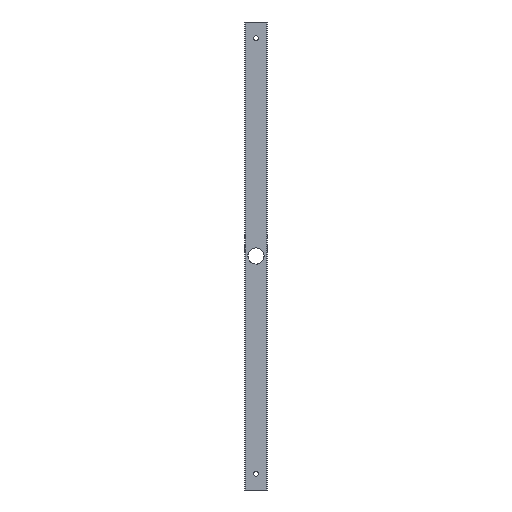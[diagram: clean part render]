
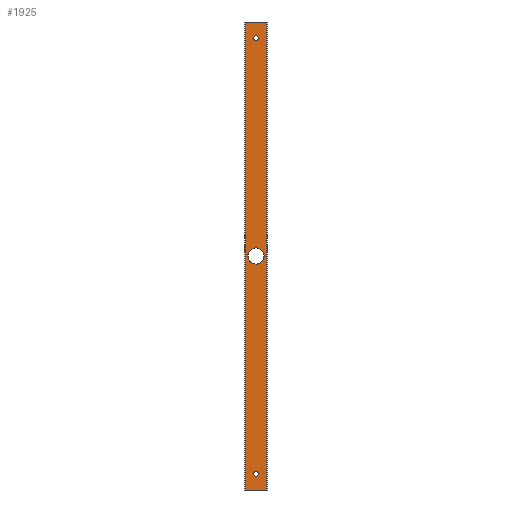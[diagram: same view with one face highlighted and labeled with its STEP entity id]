
A CAD part, front view. The second image highlights one B-rep face of the part: STEP entity #1925.
In plain terms, the highlighted planar face has unit normal (0, -1, 0).
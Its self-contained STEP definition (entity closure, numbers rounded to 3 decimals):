
#20=CIRCLE('',#2049,3.);
#21=CIRCLE('',#2050,3.);
#22=CIRCLE('',#2051,10.);
#129=PLANE('',#2048);
#180=LINE('',#2919,#342);
#181=LINE('',#2922,#343);
#182=LINE('',#2924,#344);
#183=LINE('',#2926,#345);
#342=VECTOR('',#2289,1000.);
#343=VECTOR('',#2290,1000.);
#344=VECTOR('',#2291,1000.);
#345=VECTOR('',#2292,1000.);
#532=ORIENTED_EDGE('',*,*,#1130,.T.);
#533=ORIENTED_EDGE('',*,*,#1131,.F.);
#534=ORIENTED_EDGE('',*,*,#1132,.F.);
#535=ORIENTED_EDGE('',*,*,#1133,.T.);
#536=ORIENTED_EDGE('',*,*,#1134,.T.);
#537=ORIENTED_EDGE('',*,*,#1135,.T.);
#538=ORIENTED_EDGE('',*,*,#1136,.T.);
#1130=EDGE_CURVE('',#1425,#1426,#180,.T.);
#1131=EDGE_CURVE('',#1427,#1426,#181,.T.);
#1132=EDGE_CURVE('',#1428,#1427,#182,.T.);
#1133=EDGE_CURVE('',#1428,#1425,#183,.T.);
#1134=EDGE_CURVE('',#1429,#1429,#20,.T.);
#1135=EDGE_CURVE('',#1430,#1430,#21,.T.);
#1136=EDGE_CURVE('',#1431,#1431,#22,.T.);
#1425=VERTEX_POINT('',#2920);
#1426=VERTEX_POINT('',#2921);
#1427=VERTEX_POINT('',#2923);
#1428=VERTEX_POINT('',#2925);
#1429=VERTEX_POINT('',#2928);
#1430=VERTEX_POINT('',#2930);
#1431=VERTEX_POINT('',#2932);
#1650=EDGE_LOOP('',(#532,#533,#534,#535));
#1651=EDGE_LOOP('',(#536));
#1652=EDGE_LOOP('',(#537));
#1653=EDGE_LOOP('',(#538));
#1758=FACE_BOUND('',#1650,.T.);
#1759=FACE_BOUND('',#1651,.T.);
#1760=FACE_BOUND('',#1652,.T.);
#1761=FACE_BOUND('',#1653,.T.);
#1925=ADVANCED_FACE('',(#1758,#1759,#1760,#1761),#129,.F.);
#2048=AXIS2_PLACEMENT_3D('',#2918,#2287,#2288);
#2049=AXIS2_PLACEMENT_3D('',#2927,#2293,#2294);
#2050=AXIS2_PLACEMENT_3D('',#2929,#2295,#2296);
#2051=AXIS2_PLACEMENT_3D('',#2931,#2297,#2298);
#2287=DIRECTION('',(0.,1.,0.));
#2288=DIRECTION('',(-1.,0.,0.));
#2289=DIRECTION('',(1.,0.,0.));
#2290=DIRECTION('',(0.,0.,-1.));
#2291=DIRECTION('',(1.,0.,0.));
#2292=DIRECTION('',(0.,0.,-1.));
#2293=DIRECTION('',(0.,1.,0.));
#2294=DIRECTION('',(1.,0.,0.));
#2295=DIRECTION('',(0.,1.,0.));
#2296=DIRECTION('',(1.,0.,0.));
#2297=DIRECTION('',(0.,1.,0.));
#2298=DIRECTION('',(0.,0.,-1.));
#2918=CARTESIAN_POINT('',(-13.5,-32.,288.5));
#2919=CARTESIAN_POINT('',(-13.5,-32.,-288.5));
#2920=CARTESIAN_POINT('',(-13.5,-32.,-288.5));
#2921=CARTESIAN_POINT('',(13.5,-32.,-288.5));
#2922=CARTESIAN_POINT('',(13.5,-32.,288.5));
#2923=CARTESIAN_POINT('',(13.5,-32.,288.5));
#2924=CARTESIAN_POINT('',(-13.5,-32.,288.5));
#2925=CARTESIAN_POINT('',(-13.5,-32.,288.5));
#2926=CARTESIAN_POINT('',(-13.5,-32.,288.5));
#2927=CARTESIAN_POINT('',(0.,-32.,268.5));
#2928=CARTESIAN_POINT('',(3.,-32.,268.5));
#2929=CARTESIAN_POINT('',(0.,-32.,-268.5));
#2930=CARTESIAN_POINT('',(3.,-32.,-268.5));
#2931=CARTESIAN_POINT('',(0.,-32.,0.));
#2932=CARTESIAN_POINT('',(0.,-32.,-10.));
